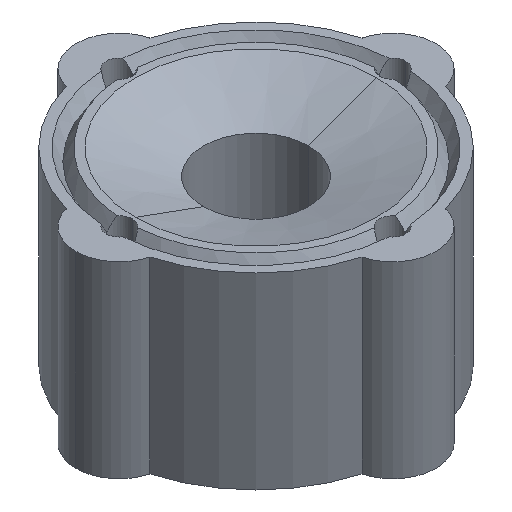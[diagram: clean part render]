
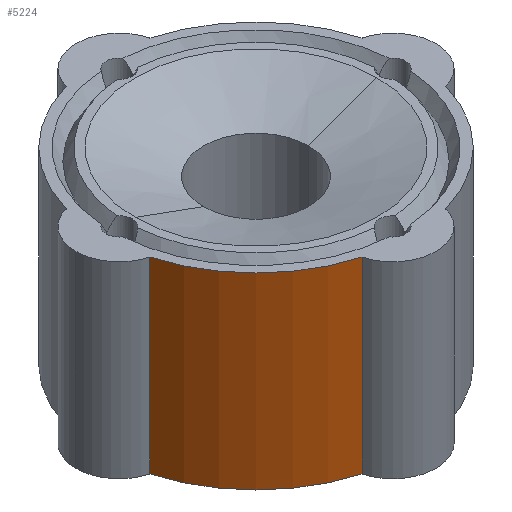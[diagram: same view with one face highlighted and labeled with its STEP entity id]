
A CAD part, isometric view. The second image highlights one B-rep face of the part: STEP entity #5224.
In plain terms, the highlighted cylindrical face has radius 45 mm (diameter 90 mm), a partial arc.
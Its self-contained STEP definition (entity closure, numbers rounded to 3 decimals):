
#119 = CARTESIAN_POINT ( 'NONE',  ( 0., 0., 0. ) ) ;
#259 = CARTESIAN_POINT ( 'NONE',  ( -43.296, -12.265, -27.5 ) ) ;
#321 = CARTESIAN_POINT ( 'NONE',  ( -12.265, -43.296, -27.5 ) ) ;
#395 = VERTEX_POINT ( 'NONE', #10946 ) ;
#493 = CARTESIAN_POINT ( 'NONE',  ( -12.265, -43.296, -55. ) ) ;
#560 = EDGE_CURVE ( 'NONE', #9575, #6700, #8808, .T. ) ;
#1373 = AXIS2_PLACEMENT_3D ( 'NONE', #119, #3870, #8676 ) ;
#1511 = AXIS2_PLACEMENT_3D ( 'NONE', #8941, #10876, #7824 ) ;
#1714 = CARTESIAN_POINT ( 'NONE',  ( -43.296, -12.265, 0. ) ) ;
#2327 = ORIENTED_EDGE ( 'NONE', *, *, #8647, .F. ) ;
#2685 = EDGE_CURVE ( 'NONE', #9575, #3041, #7102, .T. ) ;
#3041 = VERTEX_POINT ( 'NONE', #493 ) ;
#3432 = DIRECTION ( 'NONE',  ( 0., 0., 1. ) ) ;
#3590 = EDGE_CURVE ( 'NONE', #6700, #395, #4734, .T. ) ;
#3870 = DIRECTION ( 'NONE',  ( 0., 0., 1. ) ) ;
#4137 = DIRECTION ( 'NONE',  ( 0., 0., -1. ) ) ;
#4198 = CARTESIAN_POINT ( 'NONE',  ( -43.296, -12.265, -55. ) ) ;
#4600 = DIRECTION ( 'NONE',  ( 1., 0., 0. ) ) ;
#4614 = VECTOR ( 'NONE', #4137, 1000. ) ;
#4734 = CIRCLE ( 'NONE', #6314, 45. ) ;
#4918 = EDGE_LOOP ( 'NONE', ( #2327, #6360, #11086, #6227 ) ) ;
#5224 = ADVANCED_FACE ( 'NONE', ( #8792 ), #7740, .T. ) ;
#6227 = ORIENTED_EDGE ( 'NONE', *, *, #2685, .T. ) ;
#6314 = AXIS2_PLACEMENT_3D ( 'NONE', #12084, #11081, #4600 ) ;
#6360 = ORIENTED_EDGE ( 'NONE', *, *, #3590, .F. ) ;
#6700 = VERTEX_POINT ( 'NONE', #1714 ) ;
#7102 = CIRCLE ( 'NONE', #1511, 45. ) ;
#7740 = CYLINDRICAL_SURFACE ( 'NONE', #1373, 45. ) ;
#7824 = DIRECTION ( 'NONE',  ( 1., 0., 0. ) ) ;
#8647 = EDGE_CURVE ( 'NONE', #395, #3041, #8873, .T. ) ;
#8676 = DIRECTION ( 'NONE',  ( 1., 0., 0. ) ) ;
#8792 = FACE_OUTER_BOUND ( 'NONE', #4918, .T. ) ;
#8808 = LINE ( 'NONE', #259, #12266 ) ;
#8873 = LINE ( 'NONE', #321, #4614 ) ;
#8941 = CARTESIAN_POINT ( 'NONE',  ( 0., 0., -55. ) ) ;
#9575 = VERTEX_POINT ( 'NONE', #4198 ) ;
#10876 = DIRECTION ( 'NONE',  ( 0., 0., 1. ) ) ;
#10946 = CARTESIAN_POINT ( 'NONE',  ( -12.265, -43.296, 0. ) ) ;
#11081 = DIRECTION ( 'NONE',  ( 0., 0., 1. ) ) ;
#11086 = ORIENTED_EDGE ( 'NONE', *, *, #560, .F. ) ;
#12084 = CARTESIAN_POINT ( 'NONE',  ( 0., 0., 0. ) ) ;
#12266 = VECTOR ( 'NONE', #3432, 1000. ) ;
